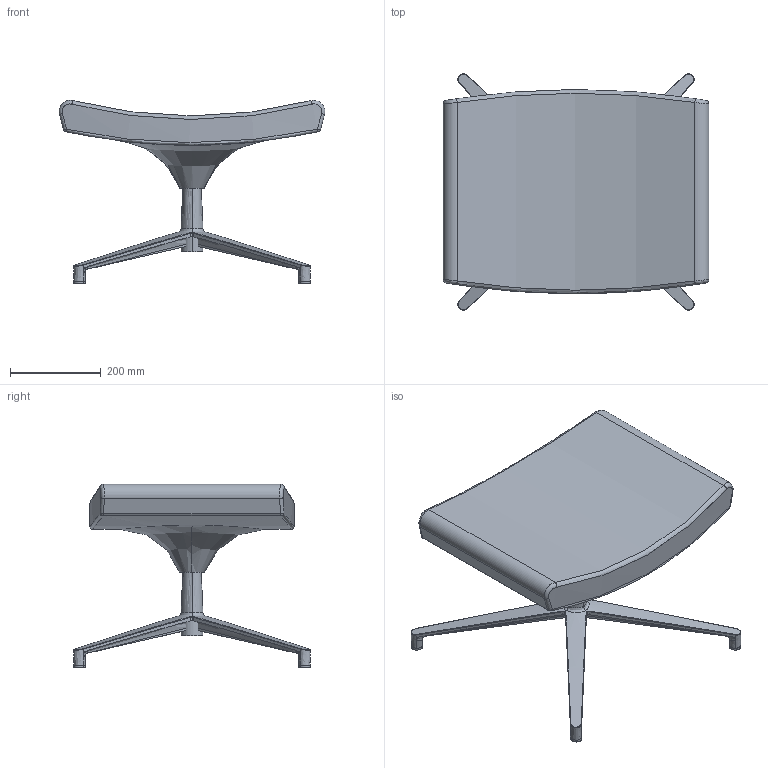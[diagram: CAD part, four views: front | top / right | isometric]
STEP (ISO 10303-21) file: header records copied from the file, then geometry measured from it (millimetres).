
FILE_DESCRIPTION(/* description */ (''),/* implementation_level */ '2;1');
FILE_NAME(/* name */ 'RELAXT~1',/* time_stamp */ '2016-05-11T14:30:45+02:00',/* author */ (''),/* organization */ (''),/* preprocessor_version */ 'ST-DEVELOPER v15',/* originating_system */ '',/* authorisation */ '');
FILE_SCHEMA (('CONFIG_CONTROL_DESIGN'));
Length unit declared in the file: millimetre
Products named in the file (1): Document
Bounding box: 585.93 x 521 x 404.17 mm (x, y, z)
Volume: 18281764 mm3; surface area: 817209 mm2
Topology: 1 solids, 7 shells, 156 faces, 363 edges, 214 vertices
Faces by surface type: bspline 132, plane 24
Entity records: 7799 total; most frequent: CARTESIAN_POINT 5708, ORIENTED_EDGE 662, EDGE_CURVE 360, VERTEX_POINT 208, B_SPLINE_CURVE_WITH_KNOTS 166, EDGE_LOOP 157, ADVANCED_FACE 156, FACE_OUTER_BOUND 156
